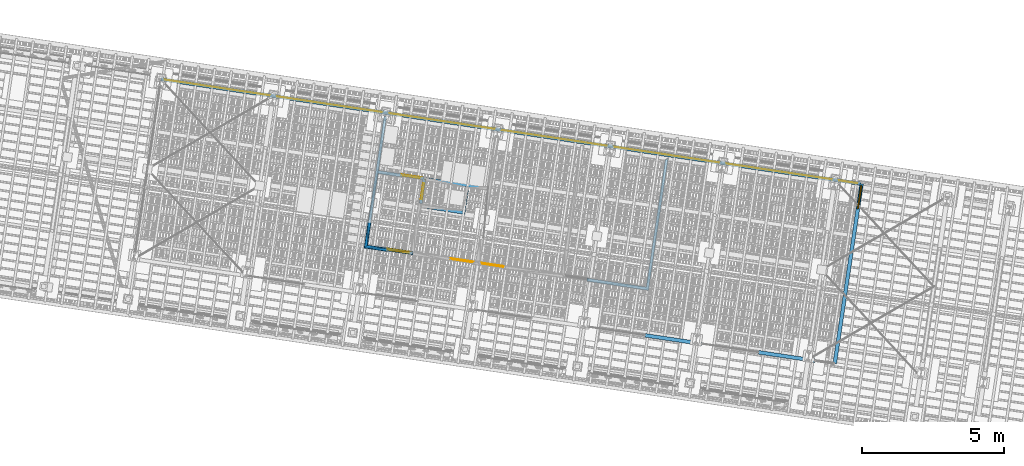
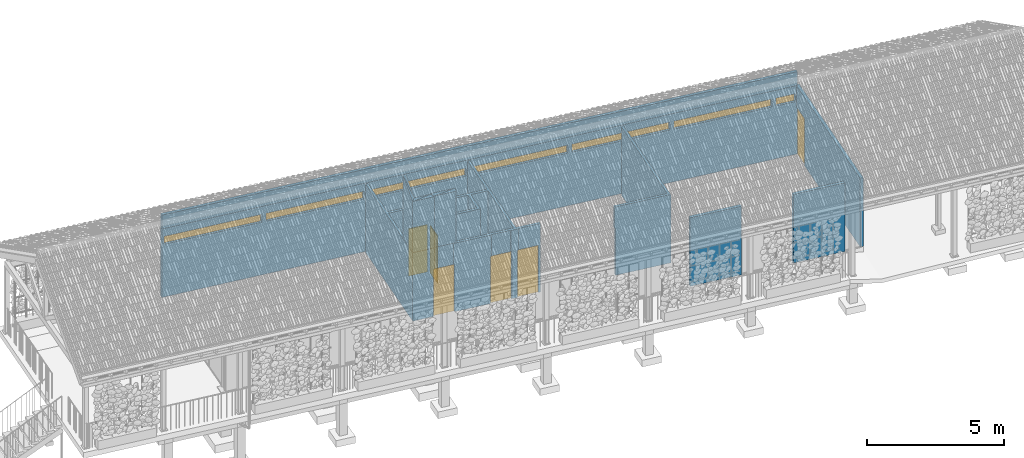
# One storey, part 121 of 131: 14 walls, 7 windows, 6 doors, 17 openings.
"""IFC4 building model written with IfcOpenShell, lengths in metres."""

from ifc_helpers import new_model, si_unit, direction, frame, origin_with_axes, place, context, subcontext, project, spatial, polyline, outline, extrude, polygons, material, layer, layer_set, constituent, constituent_set, element, fill, save


model = new_model("IFC4")

# Units and contexts
model_context = context("Model", 3, precision=1e-05, world=origin_with_axes(), true_north=direction((0.0, 1.0)))
body_context = subcontext(model_context, "Body", "Model", "MODEL_VIEW")
ifc_project = project(units=[si_unit("VOLUMEUNIT", "CUBIC_METRE"), si_unit("LENGTHUNIT", "METRE"), si_unit("AREAUNIT", "SQUARE_METRE")], contexts=[model_context])

# Site, building, storey
site_placement = place(None, origin_with_axes())
site = spatial("IfcSite", under=ifc_project, at=site_placement, Name="Lares · Rua das Mercês · artigo 4771")
building_placement = place(site_placement, frame((15.0, 9.7, 14.65), z_axis=(0.0, 0.0, 1.0), x_axis=(0.989015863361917, -0.147809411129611, 0.0)))
building = spatial("IfcBuilding", under=site, at=building_placement, Name="Casa Sobreposta")
storey_placement = place(building_placement, origin_with_axes())
storey = spatial("IfcBuildingStorey", under=building, at=storey_placement, Name="00 · Habitação e estacionamento", Elevation=14.65)

# Wall, openings, doors
ifc_material_1 = material(Name="OSB", Category="wood")
ifc_constituent_1 = constituent(ifc_material_1, Name="osb")
ifc_material_2 = material(Name="Lã mineral / Mineralwolle 2", Category="mineral wool")
ifc_constituent_2 = constituent(ifc_material_2, Name="wool")
ifc_constituent_set_1 = constituent_set(constituents=[ifc_constituent_1, ifc_constituent_2], Name="OSB22 / lã mineral / OSB22")
wall_1_placement = place(storey_placement, origin_with_axes())
wall_1 = element("IfcWall", 1, at=wall_1_placement, inside=storey, material=ifc_constituent_set_1, Name="Divisória 1 · OSB 22 mm nas duas faces", context=body_context, shape_type="SweptSolid", body=[
    extrude(outline(polyline([(8.05999999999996, 6.27299999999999), (8.05999999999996, 4.35299999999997), (8.80454037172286, 4.35299999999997), (8.80454322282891, 4.37255471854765), (9.67462900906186, 4.37242785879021), (9.67461809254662, 4.29755537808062), (9.74955631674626, 4.29756574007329), (9.74967661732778, 3.42754853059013), (9.63967661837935, 3.4275333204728), (9.63956117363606, 4.26243297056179), (8.90999999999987, 4.26253934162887), (8.90999999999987, 4.24299999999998), (8.05999999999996, 4.24299999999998), (8.05999999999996, 1.68999999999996), (8.70456930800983, 1.68999999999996), (8.70457262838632, 1.71008556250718), (9.6746647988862, 1.70992519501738), (9.67464661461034, 1.59992519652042), (8.80999999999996, 1.60006813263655), (8.80999999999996, 1.57999999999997), (7.96000000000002, 1.57999999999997), (7.96000000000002, 6.27299999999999), (8.05999999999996, 6.27299999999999)]), holes=[polyline([(7.98200000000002, 1.60199999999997), (8.78799999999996, 1.60199999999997), (8.78799999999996, 1.62207176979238), (9.65265025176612, 1.62192883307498), (9.65266116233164, 1.68792883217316), (8.72656899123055, 1.68808192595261), (8.72656567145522, 1.66799999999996), (8.03799999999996, 1.66799999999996), (8.03799999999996, 4.26499999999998), (8.88799999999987, 4.26499999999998), (8.88799999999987, 4.28454254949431), (9.65261617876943, 4.28443106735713), (9.65262580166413, 4.35043106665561), (8.8265400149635, 4.35055151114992), (8.82653716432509, 4.33099999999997), (8.03799999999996, 4.33099999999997), (8.03799999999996, 6.25099999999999), (7.98200000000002, 6.25099999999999), (7.98200000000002, 1.60199999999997)]), polyline([(9.66167357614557, 3.44953636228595), (9.72767357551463, 3.44954548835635), (9.72755935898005, 4.27556269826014), (9.661559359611, 4.27555357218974), (9.66167357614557, 3.44953636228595)])]), origin_with_axes(), (0.0, 0.0, 1.0), 3.05),
    extrude(outline(polyline([(7.98200000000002, 6.25099999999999), (8.03799999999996, 6.25099999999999), (8.03799999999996, 4.33099999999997), (8.82653716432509, 4.33099999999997), (8.8265400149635, 4.35055151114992), (9.65262580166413, 4.35043106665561), (9.65261617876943, 4.28443106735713), (8.88799999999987, 4.28454254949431), (8.88799999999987, 4.26499999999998), (8.03799999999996, 4.26499999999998), (8.03799999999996, 1.66799999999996), (8.72656567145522, 1.66799999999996), (8.72656899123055, 1.68808192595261), (9.65266116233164, 1.68792883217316), (9.65265025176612, 1.62192883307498), (8.78799999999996, 1.62207176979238), (8.78799999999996, 1.60199999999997), (7.98200000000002, 1.60199999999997), (7.98200000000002, 6.25099999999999)])), origin_with_axes(), (0.0, 0.0, 1.0), 3.05),
    extrude(outline(polyline([(9.661559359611, 4.27555357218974), (9.72755935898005, 4.27556269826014), (9.72767357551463, 3.44954548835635), (9.66167357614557, 3.44953636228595), (9.661559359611, 4.27555357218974)])), origin_with_axes(), (0.0, 0.0, 1.0), 3.05),
])
opening_1_placement = place(wall_1_placement, origin_with_axes())
opening_1 = element("IfcOpeningElement", 2, at=opening_1_placement, cuts=wall_1, PredefinedType="OPENING", context=body_context, shape_type="SweptSolid", body=[
    extrude(outline(polyline([(8.87451187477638, 4.15754451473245), (8.87455853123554, 4.47754451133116), (9.60464431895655, 4.4774380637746), (9.60459766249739, 4.15743806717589), (8.87451187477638, 4.15754451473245)])), origin_with_axes(), (0.0, 0.0, 1.0), 2.1),
])
opening_2_placement = place(wall_1_placement, origin_with_axes())
opening_2 = element("IfcOpeningElement", 3, at=opening_2_placement, cuts=wall_1, PredefinedType="OPENING", context=body_context, shape_type="SweptSolid", body=[
    extrude(outline(polyline([(8.77453708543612, 1.49507399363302), (8.77458998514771, 1.81507398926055), (9.60468215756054, 1.81493676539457), (9.60462925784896, 1.49493676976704), (8.77453708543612, 1.49507399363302)])), origin_with_axes(), (0.0, 0.0, 1.0), 2.1),
])
opening_3_placement = place(wall_1_placement, origin_with_axes())
opening_3 = element("IfcOpeningElement", 4, at=opening_3_placement, cuts=wall_1, PredefinedType="OPENING", context=body_context, shape_type="SweptSolid", body=[
    extrude(outline(polyline([(9.85466693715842, 3.49756304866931), (9.53466694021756, 3.49751880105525), (9.5345659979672, 4.22753601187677), (9.85456599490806, 4.22758025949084), (9.85466693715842, 3.49756304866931)])), origin_with_axes(), (0.0, 0.0, 1.0), 2.1),
])
door_1_placement = place(storey_placement, origin_with_axes())
door_1 = element("IfcDoor", 5, at=door_1_placement, inside=storey, material=ifc_material_1, Name="Porta interior 3", OperationType="SINGLE_SWING_LEFT", OverallHeight=2.1, OverallWidth=0.730085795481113, PredefinedType="DOOR", context=body_context, shape_type="SweptSolid", body=[
    extrude(outline(polyline([(8.87453265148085, 4.30004451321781), (8.87453775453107, 4.3350445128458), (9.60462354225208, 4.33493806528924), (9.60461843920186, 4.29993806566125), (8.87453265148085, 4.30004451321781)])), origin_with_axes(), (0.0, 0.0, 1.0), 2.1),
])
fill(opening_1, door_1)
door_2_placement = place(storey_placement, origin_with_axes())
door_2 = element("IfcDoor", 6, at=door_2_placement, inside=storey, material=ifc_material_1, Name="Porta interior 4", OperationType="SINGLE_SWING_LEFT", OverallHeight=2.1, OverallWidth=0.830092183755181, PredefinedType="DOOR", context=body_context, shape_type="SweptSolid", body=[
    extrude(outline(polyline([(8.77456064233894, 1.6375739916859), (8.7745664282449, 1.67257399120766), (9.60465860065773, 1.67243676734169), (9.60465281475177, 1.63743676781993), (8.77456064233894, 1.6375739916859)])), origin_with_axes(), (0.0, 0.0, 1.0), 2.1),
])
fill(opening_2, door_2)
door_3_placement = place(storey_placement, origin_with_axes())
door_3 = element("IfcDoor", 7, at=door_3_placement, inside=storey, material=ifc_material_1, Name="Porta interior 6", OperationType="SINGLE_SWING_LEFT", OverallHeight=2.1, OverallWidth=0.730017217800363, PredefinedType="DOOR", context=body_context, shape_type="SweptSolid", body=[
    extrude(outline(polyline([(9.71216693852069, 3.49754334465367), (9.67716693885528, 3.49753850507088), (9.67706599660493, 4.22755571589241), (9.71206599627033, 4.2275605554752), (9.71216693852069, 3.49754334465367)])), origin_with_axes(), (0.0, 0.0, 1.0), 2.1),
])
fill(opening_3, door_3)

ifc_constituent_3 = constituent(ifc_material_1, Name="osb")
ifc_constituent_4 = constituent(ifc_material_2, Name="wool")
ifc_constituent_set_2 = constituent_set(constituents=[ifc_constituent_3, ifc_constituent_4], Name="OSB22 / lã mineral / OSB22")
wall_2_placement = place(storey_placement, origin_with_axes())
wall_2 = element("IfcWall", 8, at=wall_2_placement, inside=storey, material=ifc_constituent_set_2, Name="Divisória 2 · OSB 22 mm nas duas faces", context=body_context, shape_type="SweptSolid", body=[
    extrude(outline(polyline([(9.72999999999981, 3.383), (11.1799999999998, 3.383), (11.1799999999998, 4.24299999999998), (9.72999999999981, 4.24299999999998), (9.72999999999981, 4.19299999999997), (9.61999999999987, 4.19299999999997), (9.61999999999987, 4.24299999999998), (9.56999999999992, 4.24299999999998), (9.56999999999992, 4.35299999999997), (11.96, 4.35299999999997), (11.96, 6.27299999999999), (12.06, 6.27299999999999), (12.06, 1.70993390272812), (12.9746138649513, 1.7100856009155), (12.974632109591, 1.60008560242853), (12.1099999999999, 1.59994219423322), (12.1099999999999, 1.57999999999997), (11.8099999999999, 1.57999999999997), (11.8099999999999, 1.59995696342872), (11.05, 1.60006879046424), (11.05, 1.57999999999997), (9.56999999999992, 1.57999999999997), (9.56999999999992, 1.68999999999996), (9.61999999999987, 1.68999999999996), (9.61999999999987, 3.53299999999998), (9.72999999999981, 3.53299999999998), (9.72999999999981, 3.383)]), holes=[polyline([(9.64199999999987, 3.51099999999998), (9.64199999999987, 1.66799999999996), (9.59199999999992, 1.66799999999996), (9.59199999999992, 1.60199999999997), (11.028, 1.60199999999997), (11.028, 1.62207202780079), (11.8319999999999, 1.62195372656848), (11.8319999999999, 1.60199999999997), (12.0879999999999, 1.60199999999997), (12.0879999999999, 1.62193854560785), (12.9526284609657, 1.62208195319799), (12.9526175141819, 1.68808195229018), (12.038, 1.68793025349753), (12.038, 6.25099999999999), (11.982, 6.25099999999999), (11.982, 4.33099999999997), (9.59199999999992, 4.33099999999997), (9.59199999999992, 4.26499999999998), (9.64199999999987, 4.26499999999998), (9.64199999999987, 4.21499999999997), (9.70799999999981, 4.21499999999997), (9.70799999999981, 4.26499999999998), (11.2019999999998, 4.26499999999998), (11.2019999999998, 3.361), (9.70799999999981, 3.361), (9.70799999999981, 3.51099999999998), (9.64199999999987, 3.51099999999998)])]), origin_with_axes(), (0.0, 0.0, 1.0), 3.05),
    extrude(outline(polyline([(10.9666589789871, 1.66799999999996), (9.70799999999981, 1.66799999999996), (9.70799999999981, 3.29500000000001), (11.268, 3.29500000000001), (11.268, 4.26499999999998), (11.982, 4.26499999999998), (11.982, 1.66799999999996), (11.892736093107, 1.66799999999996), (11.8927390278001, 1.68794479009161), (10.9666619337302, 1.68808105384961), (10.9666589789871, 1.66799999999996)]), holes=[polyline([(11.96, 4.24299999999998), (11.29, 4.24299999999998), (11.29, 3.27300000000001), (9.72999999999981, 3.27300000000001), (9.72999999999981, 1.68999999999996), (10.9446622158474, 1.68999999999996), (10.9446651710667, 1.71008429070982), (11.9147422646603, 1.70994155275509), (11.9147393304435, 1.68999999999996), (11.96, 1.68999999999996), (11.96, 4.24299999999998)])]), origin_with_axes(), (0.0, 0.0, 1.0), 3.05),
    extrude(outline(polyline([(9.70799999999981, 3.51099999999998), (9.70799999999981, 3.361), (11.2019999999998, 3.361), (11.2019999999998, 4.26499999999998), (9.70799999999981, 4.26499999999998), (9.70799999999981, 4.21499999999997), (9.64199999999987, 4.21499999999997), (9.64199999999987, 4.26499999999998), (9.59199999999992, 4.26499999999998), (9.59199999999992, 4.33099999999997), (11.982, 4.33099999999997), (11.982, 6.25099999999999), (12.038, 6.25099999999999), (12.038, 1.68793025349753), (12.9526175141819, 1.68808195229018), (12.9526284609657, 1.62208195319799), (12.0879999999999, 1.62193854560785), (12.0879999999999, 1.60199999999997), (11.8319999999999, 1.60199999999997), (11.8319999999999, 1.62195372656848), (11.028, 1.62207202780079), (11.028, 1.60199999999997), (9.59199999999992, 1.60199999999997), (9.59199999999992, 1.66799999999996), (9.64199999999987, 1.66799999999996), (9.64199999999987, 3.51099999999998), (9.70799999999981, 3.51099999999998)]), holes=[polyline([(10.9666619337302, 1.68808105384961), (11.8927390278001, 1.68794479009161), (11.892736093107, 1.66799999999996), (11.982, 1.66799999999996), (11.982, 4.26499999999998), (11.268, 4.26499999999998), (11.268, 3.29500000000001), (9.70799999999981, 3.29500000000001), (9.70799999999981, 1.66799999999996), (10.9666589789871, 1.66799999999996), (10.9666619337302, 1.68808105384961)])]), origin_with_axes(), (0.0, 0.0, 1.0), 3.05),
])
opening_4_placement = place(wall_2_placement, origin_with_axes())
opening_4 = element("IfcOpeningElement", 9, at=opening_4_placement, cuts=wall_2, PredefinedType="OPENING", context=body_context, shape_type="SweptSolid", body=[
    extrude(outline(polyline([(12.9045964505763, 1.81507398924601), (12.9046495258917, 1.49507399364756), (12.0745568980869, 1.49493631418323), (12.0745038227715, 1.81493630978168), (12.9045964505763, 1.81507398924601)])), origin_with_axes(), (0.0, 0.0, 1.0), 2.1),
])
opening_5_placement = place(wall_2_placement, origin_with_axes())
element("IfcOpeningElement", 10, at=opening_5_placement, cuts=wall_2, PredefinedType="OPENING", context=body_context, shape_type="SweptSolid", body=[
    extrude(outline(polyline([(8.87451187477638, 4.15754451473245), (8.87455853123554, 4.47754451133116), (9.60464431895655, 4.4774380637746), (9.60459766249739, 4.15743806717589), (8.87451187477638, 4.15754451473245)])), origin_with_axes(), (0.0, 0.0, 1.0), 2.1),
])
opening_6_placement = place(wall_2_placement, origin_with_axes())
element("IfcOpeningElement", 11, at=opening_6_placement, cuts=wall_2, PredefinedType="OPENING", context=body_context, shape_type="SweptSolid", body=[
    extrude(outline(polyline([(8.77453708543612, 1.49507399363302), (8.77458998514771, 1.81507398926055), (9.60468215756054, 1.81493676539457), (9.60462925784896, 1.49493676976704), (8.77453708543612, 1.49507399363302)])), origin_with_axes(), (0.0, 0.0, 1.0), 2.1),
])
opening_7_placement = place(wall_2_placement, origin_with_axes())
opening_7 = element("IfcOpeningElement", 12, at=opening_7_placement, cuts=wall_2, Name="Vão porta interior 5.1", PredefinedType="OPENING", context=body_context, shape_type="SweptSolid", body=[
    extrude(outline(polyline([(11.0146335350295, 1.49507399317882), (11.0146806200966, 1.81507398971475), (11.8447577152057, 1.81495185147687), (11.8447106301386, 1.49495185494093), (11.0146335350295, 1.49507399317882)])), origin_with_axes(), (0.0, 0.0, 1.0), 2.1),
])
opening_8_placement = place(wall_2_placement, origin_with_axes())
element("IfcOpeningElement", 13, at=opening_8_placement, cuts=wall_2, PredefinedType="OPENING", context=body_context, shape_type="SweptSolid", body=[
    extrude(outline(polyline([(9.85466693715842, 3.49756304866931), (9.53466694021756, 3.49751880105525), (9.5345659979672, 4.22753601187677), (9.85456599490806, 4.22758025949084), (9.85466693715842, 3.49756304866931)])), origin_with_axes(), (0.0, 0.0, 1.0), 2.1),
])
door_4_placement = place(storey_placement, origin_with_axes())
door_4 = element("IfcDoor", 14, at=door_4_placement, inside=storey, material=ifc_material_1, Name="Porta interior 2", OperationType="SINGLE_SWING_LEFT", OverallHeight=2.1, OverallWidth=0.830092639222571, PredefinedType="DOOR", context=body_context, shape_type="SweptSolid", body=[
    extrude(outline(polyline([(12.9046200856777, 1.67257399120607), (12.9046258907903, 1.63757399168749), (12.0745332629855, 1.63743631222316), (12.0745274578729, 1.67243631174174), (12.9046200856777, 1.67257399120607)])), origin_with_axes(), (0.0, 0.0, 1.0), 2.1),
])
fill(opening_4, door_4)
door_5_placement = place(storey_placement, origin_with_axes())
door_5 = element("IfcDoor", 15, at=door_5_placement, inside=storey, material=ifc_material_1, Name="Porta interior 5", OperationType="SINGLE_SWING_LEFT", OverallHeight=2.1, OverallWidth=0.830077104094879, PredefinedType="DOOR", context=body_context, shape_type="SweptSolid", body=[
    extrude(outline(polyline([(11.0146545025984, 1.63757399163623), (11.0146596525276, 1.67257399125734), (11.8447367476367, 1.67245185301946), (11.8447315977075, 1.63745185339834), (11.0146545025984, 1.63757399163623)])), origin_with_axes(), (0.0, 0.0, 1.0), 2.1),
])
fill(opening_7, door_5)

# Wall, opening
ifc_constituent_5 = constituent(ifc_material_1, Name="osb")
ifc_constituent_6 = constituent(ifc_material_2, Name="wool")
ifc_constituent_set_3 = constituent_set(constituents=[ifc_constituent_5, ifc_constituent_6], Name="OSB22 / lã mineral / OSB22")
wall_3_placement = place(storey_placement, origin_with_axes())
wall_3 = element("IfcWall", 16, at=wall_3_placement, inside=storey, material=ifc_constituent_set_3, Name="Divisória 4 · OSB 22 mm nas duas faces", context=body_context, shape_type="SweptSolid", body=[
    extrude(outline(polyline([(17.98, 6.21236749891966), (18.0799999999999, 6.29570083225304), (18.0799999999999, 1.57999999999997), (15.8799999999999, 1.57999999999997), (15.8799999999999, 1.68999999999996), (17.98, 1.68999999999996), (17.98, 6.21236749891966)]), holes=[polyline([(15.9019999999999, 1.66799999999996), (15.9019999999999, 1.60199999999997), (18.0579999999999, 1.60199999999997), (18.0579999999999, 6.24872991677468), (18.002, 6.202063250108), (18.002, 1.66799999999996), (15.9019999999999, 1.66799999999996)])]), origin_with_axes(), (0.0, 0.0, 1.0), 3.05),
    extrude(outline(polyline([(18.002, 1.66799999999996), (18.002, 6.202063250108), (18.0579999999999, 6.24872991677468), (18.0579999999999, 1.60199999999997), (15.9019999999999, 1.60199999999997), (15.9019999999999, 1.66799999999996), (18.002, 1.66799999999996)])), origin_with_axes(), (0.0, 0.0, 1.0), 3.05),
])
opening_9_placement = place(wall_3_placement, origin_with_axes())
element("IfcOpeningElement", 17, at=opening_9_placement, cuts=wall_3, PredefinedType="OPENING", context=body_context, shape_type="SweptSolid", body=[
    extrude(outline(polyline([(15.9146091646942, 1.81507398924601), (15.9146622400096, 1.49507399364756), (15.0845696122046, 1.49493631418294), (15.0845165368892, 1.8149363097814), (15.9146091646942, 1.81507398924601)])), origin_with_axes(), (0.0, 0.0, 1.0), 2.1),
])

# Wall, openings, windows
ifc_material_3 = material(Name="Aço pintado / Stahl lackiert", Category="steel")
ifc_layer_1 = layer(ifc_material_3, 0.005, Name="steel")
ifc_layer_2 = layer(ifc_material_2, 0.12, Name="wool")
ifc_layer_3 = layer(ifc_material_3, 0.00516, Name="steel")
ifc_layer_set_1 = layer_set([ifc_layer_1, ifc_layer_2, ifc_layer_3], Name="Casa DFL sandwich · 130.16 mm")
wall_4_placement = place(storey_placement, origin_with_axes())
wall_4 = element("IfcWall", 18, at=wall_4_placement, inside=storey, material=ifc_layer_set_1, Name="Fachada norte · sandwich Casa DFL", context=body_context, shape_type="SweptSolid", body=[
    extrude(outline(polyline([(24.92, 6.46508), (24.92, 6.33492), (0.0, 6.33492), (0.0, 6.46508), (24.92, 6.46508)])), origin_with_axes(), (0.0, 0.0, 1.0), 3.05),
])
opening_10_placement = place(wall_4_placement, frame((0.0, 0.0, 2.35), z_axis=(0.0, 0.0, 1.0), x_axis=(1.0, 0.0, 0.0)))
opening_10 = element("IfcOpeningElement", 19, at=opening_10_placement, cuts=wall_4, Name="Vão rasgo norte 1", PredefinedType="OPENING", context=body_context, shape_type="SweptSolid", body=[
    extrude(outline(polyline([(3.92, 6.6), (3.92, 6.2), (0.08, 6.2), (0.08, 6.6), (3.92, 6.6)])), origin_with_axes(), (0.0, 0.0, 1.0), 0.35),
])
opening_11_placement = place(wall_4_placement, frame((0.0, 0.0, 2.35), z_axis=(0.0, 0.0, 1.0), x_axis=(1.0, 0.0, 0.0)))
opening_11 = element("IfcOpeningElement", 20, at=opening_11_placement, cuts=wall_4, Name="Vão rasgo norte 2", PredefinedType="OPENING", context=body_context, shape_type="SweptSolid", body=[
    extrude(outline(polyline([(7.92, 6.6), (7.92, 6.2), (4.08, 6.2), (4.08, 6.6), (7.92, 6.6)])), origin_with_axes(), (0.0, 0.0, 1.0), 0.35),
])
opening_12_placement = place(wall_4_placement, frame((0.0, 0.0, 2.35), z_axis=(0.0, 0.0, 1.0), x_axis=(1.0, 0.0, 0.0)))
opening_12 = element("IfcOpeningElement", 21, at=opening_12_placement, cuts=wall_4, Name="Vão rasgo norte 3", PredefinedType="OPENING", context=body_context, shape_type="SweptSolid", body=[
    extrude(outline(polyline([(11.92, 6.6), (11.92, 6.2), (8.08, 6.2), (8.08, 6.6), (11.92, 6.6)])), origin_with_axes(), (0.0, 0.0, 1.0), 0.35),
])
opening_13_placement = place(wall_4_placement, frame((0.0, 0.0, 2.35), z_axis=(0.0, 0.0, 1.0), x_axis=(1.0, 0.0, 0.0)))
opening_13 = element("IfcOpeningElement", 22, at=opening_13_placement, cuts=wall_4, Name="Vão rasgo norte 4", PredefinedType="OPENING", context=body_context, shape_type="SweptSolid", body=[
    extrude(outline(polyline([(15.92, 6.6), (15.92, 6.2), (12.08, 6.2), (12.08, 6.6), (15.92, 6.6)])), origin_with_axes(), (0.0, 0.0, 1.0), 0.35),
])
opening_14_placement = place(wall_4_placement, frame((0.0, 0.0, 2.35), z_axis=(0.0, 0.0, 1.0), x_axis=(1.0, 0.0, 0.0)))
opening_14 = element("IfcOpeningElement", 23, at=opening_14_placement, cuts=wall_4, Name="Vão rasgo norte 5", PredefinedType="OPENING", context=body_context, shape_type="SweptSolid", body=[
    extrude(outline(polyline([(19.92, 6.6), (19.92, 6.2), (16.08, 6.2), (16.08, 6.6), (19.92, 6.6)])), origin_with_axes(), (0.0, 0.0, 1.0), 0.35),
])
opening_15_placement = place(wall_4_placement, frame((0.0, 0.0, 2.35), z_axis=(0.0, 0.0, 1.0), x_axis=(1.0, 0.0, 0.0)))
opening_15 = element("IfcOpeningElement", 24, at=opening_15_placement, cuts=wall_4, Name="Vão rasgo norte 6", PredefinedType="OPENING", context=body_context, shape_type="SweptSolid", body=[
    extrude(outline(polyline([(23.92, 6.6), (23.92, 6.2), (20.08, 6.2), (20.08, 6.6), (23.92, 6.6)])), origin_with_axes(), (0.0, 0.0, 1.0), 0.35),
])
opening_16_placement = place(wall_4_placement, frame((0.0, 0.0, 2.35), z_axis=(0.0, 0.0, 1.0), x_axis=(1.0, 0.0, 0.0)))
opening_16 = element("IfcOpeningElement", 25, at=opening_16_placement, cuts=wall_4, Name="Vão rasgo norte 7", PredefinedType="OPENING", context=body_context, shape_type="SweptSolid", body=[
    extrude(outline(polyline([(24.84, 6.6), (24.84, 6.2), (24.08, 6.2), (24.08, 6.6), (24.84, 6.6)])), origin_with_axes(), (0.0, 0.0, 1.0), 0.35),
])
ifc_material_4 = material(Name="Vidro / Normalglas", Category="glass")
window_1_placement = place(storey_placement, frame((0.0, 0.0, 2.375), z_axis=(0.0, 0.0, 1.0), x_axis=(1.0, 0.0, 0.0)))
window_1 = element("IfcWindow", 26, at=window_1_placement, inside=storey, material=ifc_material_4, Name="Rasgo norte 1", OverallHeight=0.3, OverallWidth=3.79, PartitioningType="SINGLE_PANEL", PredefinedType="WINDOW", context=body_context, shape_type="SweptSolid", body=[
    extrude(outline(polyline([(3.895, 6.404), (3.895, 6.396), (0.105, 6.396), (0.105, 6.404), (3.895, 6.404)])), origin_with_axes(), (0.0, 0.0, 1.0), 0.3),
])
fill(opening_10, window_1)
window_2_placement = place(storey_placement, frame((0.0, 0.0, 2.375), z_axis=(0.0, 0.0, 1.0), x_axis=(1.0, 0.0, 0.0)))
window_2 = element("IfcWindow", 27, at=window_2_placement, inside=storey, material=ifc_material_4, Name="Rasgo norte 2", OverallHeight=0.3, OverallWidth=3.79, PartitioningType="SINGLE_PANEL", PredefinedType="WINDOW", context=body_context, shape_type="SweptSolid", body=[
    extrude(outline(polyline([(7.895, 6.404), (7.895, 6.396), (4.105, 6.396), (4.105, 6.404), (7.895, 6.404)])), origin_with_axes(), (0.0, 0.0, 1.0), 0.3),
])
fill(opening_11, window_2)
window_3_placement = place(storey_placement, frame((0.0, 0.0, 2.375), z_axis=(0.0, 0.0, 1.0), x_axis=(1.0, 0.0, 0.0)))
window_3 = element("IfcWindow", 28, at=window_3_placement, inside=storey, material=ifc_material_4, Name="Rasgo norte 3", OverallHeight=0.3, OverallWidth=3.79, PartitioningType="SINGLE_PANEL", PredefinedType="WINDOW", context=body_context, shape_type="SweptSolid", body=[
    extrude(outline(polyline([(11.895, 6.404), (11.895, 6.396), (8.105, 6.396), (8.105, 6.404), (11.895, 6.404)])), origin_with_axes(), (0.0, 0.0, 1.0), 0.3),
])
fill(opening_12, window_3)
window_4_placement = place(storey_placement, frame((0.0, 0.0, 2.375), z_axis=(0.0, 0.0, 1.0), x_axis=(1.0, 0.0, 0.0)))
window_4 = element("IfcWindow", 29, at=window_4_placement, inside=storey, material=ifc_material_4, Name="Rasgo norte 4", OverallHeight=0.3, OverallWidth=3.79, PartitioningType="SINGLE_PANEL", PredefinedType="WINDOW", context=body_context, shape_type="SweptSolid", body=[
    extrude(outline(polyline([(15.895, 6.404), (15.895, 6.396), (12.105, 6.396), (12.105, 6.404), (15.895, 6.404)])), origin_with_axes(), (0.0, 0.0, 1.0), 0.3),
])
fill(opening_13, window_4)
window_5_placement = place(storey_placement, frame((0.0, 0.0, 2.375), z_axis=(0.0, 0.0, 1.0), x_axis=(1.0, 0.0, 0.0)))
window_5 = element("IfcWindow", 30, at=window_5_placement, inside=storey, material=ifc_material_4, Name="Rasgo norte 5", OverallHeight=0.3, OverallWidth=3.79, PartitioningType="SINGLE_PANEL", PredefinedType="WINDOW", context=body_context, shape_type="SweptSolid", body=[
    extrude(outline(polyline([(19.895, 6.404), (19.895, 6.396), (16.105, 6.396), (16.105, 6.404), (19.895, 6.404)])), origin_with_axes(), (0.0, 0.0, 1.0), 0.3),
])
fill(opening_14, window_5)
window_6_placement = place(storey_placement, frame((0.0, 0.0, 2.375), z_axis=(0.0, 0.0, 1.0), x_axis=(1.0, 0.0, 0.0)))
window_6 = element("IfcWindow", 31, at=window_6_placement, inside=storey, material=ifc_material_4, Name="Rasgo norte 6", OverallHeight=0.3, OverallWidth=3.79, PartitioningType="SINGLE_PANEL", PredefinedType="WINDOW", context=body_context, shape_type="SweptSolid", body=[
    extrude(outline(polyline([(23.895, 6.404), (23.895, 6.396), (20.105, 6.396), (20.105, 6.404), (23.895, 6.404)])), origin_with_axes(), (0.0, 0.0, 1.0), 0.3),
])
fill(opening_15, window_6)
window_7_placement = place(storey_placement, frame((0.0, 0.0, 2.375), z_axis=(0.0, 0.0, 1.0), x_axis=(1.0, 0.0, 0.0)))
window_7 = element("IfcWindow", 32, at=window_7_placement, inside=storey, material=ifc_material_4, Name="Rasgo norte 7", OverallHeight=0.3, OverallWidth=0.710000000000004, PartitioningType="SINGLE_PANEL", PredefinedType="WINDOW", context=body_context, shape_type="SweptSolid", body=[
    extrude(outline(polyline([(24.815, 6.404), (24.815, 6.396), (24.105, 6.396), (24.105, 6.404), (24.815, 6.404)])), origin_with_axes(), (0.0, 0.0, 1.0), 0.3),
])
fill(opening_16, window_7)

# Wall, opening, door
ifc_layer_4 = layer(ifc_material_3, 0.005, Name="steel")
ifc_layer_5 = layer(ifc_material_2, 0.12, Name="wool")
ifc_layer_6 = layer(ifc_material_3, 0.00516, Name="steel")
ifc_layer_set_2 = layer_set([ifc_layer_4, ifc_layer_5, ifc_layer_6], Name="Casa DFL sandwich · 130.16 mm")
wall_5_placement = place(storey_placement, origin_with_axes())
wall_5 = element("IfcWall", 33, at=wall_5_placement, inside=storey, material=ifc_layer_set_2, Name="Separação do estacionamento", context=body_context, shape_type="SweptSolid", body=[
    extrude(outline(polyline([(24.87992, 6.4), (25.01008, 6.4), (25.01008, 0.0), (24.87992, 0.0), (24.87992, 6.4)])), origin_with_axes(), (0.0, 0.0, 1.0), 3.05),
])
opening_17_placement = place(wall_5_placement, origin_with_axes())
opening_17 = element("IfcOpeningElement", 34, at=opening_17_placement, cuts=wall_5, Name="Vão de acesso do estacionamento", PredefinedType="OPENING", context=body_context, shape_type="SweptSolid", body=[
    extrude(outline(polyline([(24.745, 6.34), (25.145, 6.34), (25.145, 5.51), (24.745, 5.51), (24.745, 6.34)])), origin_with_axes(), (0.0, 0.0, 1.0), 2.1),
])
door_6_placement = place(storey_placement, origin_with_axes())
door_6 = element("IfcDoor", 35, at=door_6_placement, inside=storey, material=ifc_material_3, Name="Porta do estacionamento", OperationType="SINGLE_SWING_LEFT", OverallHeight=2.1, OverallWidth=0.83, PredefinedType="DOOR", context=body_context, shape_type="SweptSolid", body=[
    extrude(outline(polyline([(24.925, 6.34), (24.965, 6.34), (24.965, 5.51), (24.925, 5.51), (24.925, 6.34)])), origin_with_axes(), (0.0, 0.0, 1.0), 2.1),
])
fill(opening_17, door_6)

# Walls
ifc_layer_7 = layer(ifc_material_3, 0.005, Name="steel")
ifc_layer_8 = layer(ifc_material_2, 0.12, Name="wool")
ifc_layer_9 = layer(ifc_material_3, 0.00516, Name="steel")
ifc_layer_set_3 = layer_set([ifc_layer_7, ifc_layer_8, ifc_layer_9], Name="Casa DFL sandwich · 130.16 mm")
wall_6_placement = place(storey_placement, origin_with_axes())
element("IfcWall", 36, at=wall_6_placement, inside=storey, material=ifc_layer_set_3, Name="Painel opaco sul 9", context=body_context, shape_type="SweptSolid", body=[
    extrude(outline(polyline([(20.2133333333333, 0.06508), (20.2133333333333, -0.06508), (18.192, -0.06508), (18.192, 0.06508), (20.2133333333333, 0.06508)])), origin_with_axes(), (0.0, 0.0, 1.0), 3.05),
])
ifc_layer_10 = layer(ifc_material_3, 0.005, Name="steel")
ifc_layer_11 = layer(ifc_material_2, 0.12, Name="wool")
ifc_layer_12 = layer(ifc_material_3, 0.00516, Name="steel")
ifc_layer_set_4 = layer_set([ifc_layer_10, ifc_layer_11, ifc_layer_12], Name="Casa DFL sandwich · 130.16 mm")
wall_7_placement = place(storey_placement, origin_with_axes())
element("IfcWall", 37, at=wall_7_placement, inside=storey, material=ifc_layer_set_4, Name="Painel opaco sul 11", context=body_context, shape_type="SweptSolid", body=[
    extrude(outline(polyline([(24.256, 0.06508), (24.256, -0.06508), (22.2346666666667, -0.06508), (22.2346666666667, 0.06508), (24.256, 0.06508)])), origin_with_axes(), (0.0, 0.0, 1.0), 3.05),
])
ifc_material_5 = material(Name="Madeira / Bauholz", Category="wood")
wall_8_placement = place(storey_placement, frame((0.0, 0.0, 3.05), z_axis=(0.0, 0.0, 1.0), x_axis=(1.0, 0.0, 0.0)))
element("IfcWall", 38, at=wall_8_placement, inside=storey, material=ifc_material_5, Name="Fachada · remate sob frechal", context=body_context, shape_type="SweptSolid", body=[
    extrude(outline(polyline([(24.92, 6.465), (24.92, 6.335), (0.0, 6.335), (0.0, 6.465), (24.92, 6.465)])), origin_with_axes(), (0.0, 0.0, 1.0), 0.616410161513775),
])
wall_9_placement = place(storey_placement, origin_with_axes())
element("IfcWall", 39, at=wall_9_placement, inside=storey, material=ifc_material_1, Name="Divisória · prolongamento até ao forro", context=body_context, shape_type="Tessellation", body=[
    polygons([(7.96000000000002, 2.55, 3.05), (7.96000000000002, 1.57999999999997, 3.05), (8.05999999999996, 1.68999999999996, 3.05), (7.96000000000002, 2.55, 5.88920869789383), (7.96000000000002, 1.57999999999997, 5.32917893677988), (8.05999999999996, 1.68999999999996, 5.39268746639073)], [[[3, 2, 1]], [[4, 5, 6]], [[1, 2, 5, 4]], [[2, 3, 6, 5]], [[3, 1, 4, 6]]]),
])
wall_10_placement = place(storey_placement, origin_with_axes())
element("IfcWall", 40, at=wall_10_placement, inside=storey, material=ifc_material_1, Name="Divisória · prolongamento até ao forro", context=body_context, shape_type="Tessellation", body=[
    polygons([(7.96000000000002, 2.55, 3.05), (8.05999999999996, 1.68999999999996, 3.05), (8.05999999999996, 2.55, 3.05), (7.96000000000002, 2.55, 5.88920869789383), (8.05999999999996, 1.68999999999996, 5.39268746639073), (8.05999999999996, 2.55, 5.88920869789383)], [[[3, 2, 1]], [[4, 5, 6]], [[1, 2, 5, 4]], [[2, 3, 6, 5]], [[3, 1, 4, 6]]]),
])
wall_11_placement = place(storey_placement, origin_with_axes())
element("IfcWall", 41, at=wall_11_placement, inside=storey, material=ifc_material_1, Name="Divisória · prolongamento até ao forro", context=body_context, shape_type="Tessellation", body=[
    polygons([(9.6746647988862, 1.70992519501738, 3.05), (8.70457262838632, 1.71008556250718, 3.05), (8.80999999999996, 1.60006813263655, 3.05), (9.6746647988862, 1.70992519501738, 5.4041912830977), (8.70457262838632, 1.71008556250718, 5.4042838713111), (8.80999999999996, 1.60006813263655, 5.34076527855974)], [[[3, 2, 1]], [[4, 5, 6]], [[1, 2, 5, 4]], [[2, 3, 6, 5]], [[3, 1, 4, 6]]]),
])
wall_12_placement = place(storey_placement, origin_with_axes())
element("IfcWall", 42, at=wall_12_placement, inside=storey, material=ifc_material_1, Name="Divisória · prolongamento até ao forro", context=body_context, shape_type="Tessellation", body=[
    polygons([(9.6746647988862, 1.70992519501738, 3.05), (8.80999999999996, 1.60006813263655, 3.05), (9.67464661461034, 1.59992519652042, 3.05), (9.6746647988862, 1.70992519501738, 5.4041912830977), (8.80999999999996, 1.60006813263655, 5.34076527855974), (9.67464661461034, 1.59992519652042, 5.34068275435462)], [[[3, 2, 1]], [[4, 5, 6]], [[1, 2, 5, 4]], [[2, 3, 6, 5]], [[3, 1, 4, 6]]]),
])
wall_13_placement = place(storey_placement, origin_with_axes())
element("IfcWall", 43, at=wall_13_placement, inside=storey, material=ifc_material_1, Name="Divisória · prolongamento até ao forro", context=body_context, shape_type="Tessellation", body=[
    polygons([(8.80999999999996, 1.57999999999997, 3.05), (8.70456930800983, 1.68999999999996, 3.05), (7.96000000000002, 1.57999999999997, 3.05), (8.80999999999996, 1.57999999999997, 5.32917893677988), (8.70456930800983, 1.68999999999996, 5.39268746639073), (7.96000000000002, 1.57999999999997, 5.32917893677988)], [[[3, 2, 1]], [[4, 5, 6]], [[1, 2, 5, 4]], [[2, 3, 6, 5]], [[3, 1, 4, 6]]]),
])
wall_14_placement = place(storey_placement, origin_with_axes())
element("IfcWall", 44, at=wall_14_placement, inside=storey, material=ifc_material_1, Name="Divisória · prolongamento até ao forro", context=body_context, shape_type="Tessellation", body=[
    polygons([(7.96000000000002, 1.57999999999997, 3.05), (8.70456930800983, 1.68999999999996, 3.05), (8.05999999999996, 1.68999999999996, 3.05), (7.96000000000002, 1.57999999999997, 5.32917893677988), (8.70456930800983, 1.68999999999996, 5.39268746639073), (8.05999999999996, 1.68999999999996, 5.39268746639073)], [[[3, 2, 1]], [[4, 5, 6]], [[1, 2, 5, 4]], [[2, 3, 6, 5]], [[3, 1, 4, 6]]]),
])

save(model, "model.ifc")
